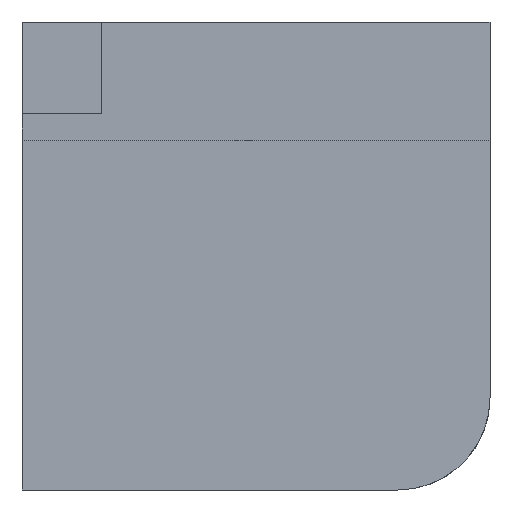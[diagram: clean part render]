
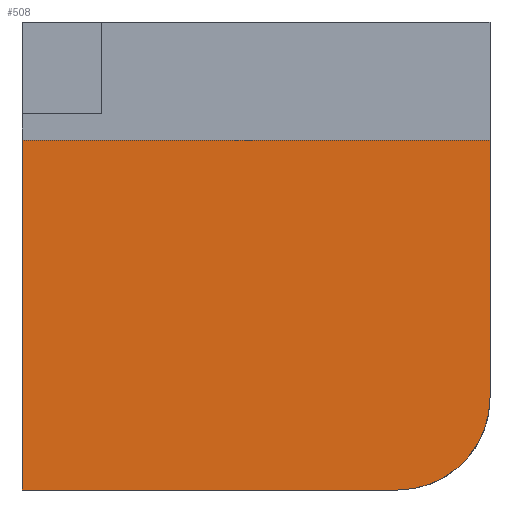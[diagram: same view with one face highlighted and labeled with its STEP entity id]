
A CAD part, left-side view. The second image highlights one B-rep face of the part: STEP entity #508.
In plain terms, the highlighted planar face has unit normal (-1, 0, 0).
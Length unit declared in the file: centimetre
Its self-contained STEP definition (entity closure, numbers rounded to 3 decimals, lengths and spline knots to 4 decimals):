
#2 = AXIS2_PLACEMENT_3D ( 'NONE', #545, #800, #596 ) ;
#24 = ORIENTED_EDGE ( 'NONE', *, *, #400, .T. ) ;
#30 = VERTEX_POINT ( 'NONE', #187 ) ;
#45 = CARTESIAN_POINT ( 'NONE',  ( 0., 1000., 747.0746 ) ) ;
#151 = PLANE ( 'NONE',  #767 ) ;
#156 = VECTOR ( 'NONE', #192, 100. ) ;
#165 = DIRECTION ( 'NONE',  ( 0., -1., 0. ) ) ;
#176 = LINE ( 'NONE', #764, #156 ) ;
#187 = CARTESIAN_POINT ( 'NONE',  ( 0., 1000., 0. ) ) ;
#192 = DIRECTION ( 'NONE',  ( 0., 1., 0. ) ) ;
#201 = FACE_OUTER_BOUND ( 'NONE', #500, .T. ) ;
#211 = EDGE_CURVE ( 'NONE', #761, #295, #370, .T. ) ;
#229 = DIRECTION ( 'NONE',  ( 0., 0., -1. ) ) ;
#270 = DIRECTION ( 'NONE',  ( 0., 0., -1. ) ) ;
#282 = ORIENTED_EDGE ( 'NONE', *, *, #655, .F. ) ;
#295 = VERTEX_POINT ( 'NONE', #772 ) ;
#307 = VERTEX_POINT ( 'NONE', #457 ) ;
#308 = DIRECTION ( 'NONE',  ( 0., 0., -1. ) ) ;
#352 = CARTESIAN_POINT ( 'NONE',  ( 0., 0., 1000. ) ) ;
#362 = ORIENTED_EDGE ( 'NONE', *, *, #718, .T. ) ;
#370 = CIRCLE ( 'NONE', #2, 197.5282 ) ;
#400 = EDGE_CURVE ( 'NONE', #307, #449, #176, .T. ) ;
#424 = ORIENTED_EDGE ( 'NONE', *, *, #747, .T. ) ;
#432 = CARTESIAN_POINT ( 'NONE',  ( 0., 1000., 0. ) ) ;
#449 = VERTEX_POINT ( 'NONE', #45 ) ;
#457 = CARTESIAN_POINT ( 'NONE',  ( 0., 0., 747.0746 ) ) ;
#471 = VECTOR ( 'NONE', #229, 100. ) ;
#481 = LINE ( 'NONE', #432, #537 ) ;
#500 = EDGE_LOOP ( 'NONE', ( #282, #24, #362, #424, #822 ) ) ;
#508 = ADVANCED_FACE ( 'NONE', ( #201 ), #151, .F. ) ;
#537 = VECTOR ( 'NONE', #165, 100. ) ;
#543 = LINE ( 'NONE', #352, #694 ) ;
#545 = CARTESIAN_POINT ( 'NONE',  ( 0., 197.5282, 197.5282 ) ) ;
#579 = DIRECTION ( 'NONE',  ( 1., 0., 0. ) ) ;
#596 = DIRECTION ( 'NONE',  ( 0., 0., -1. ) ) ;
#646 = CARTESIAN_POINT ( 'NONE',  ( 0., 1000., 1000. ) ) ;
#655 = EDGE_CURVE ( 'NONE', #307, #295, #543, .T. ) ;
#676 = CARTESIAN_POINT ( 'NONE',  ( 0., 197.5282, 0. ) ) ;
#694 = VECTOR ( 'NONE', #308, 100. ) ;
#718 = EDGE_CURVE ( 'NONE', #449, #30, #811, .T. ) ;
#732 = CARTESIAN_POINT ( 'NONE',  ( 0., 1000., 1000. ) ) ;
#747 = EDGE_CURVE ( 'NONE', #30, #761, #481, .T. ) ;
#761 = VERTEX_POINT ( 'NONE', #676 ) ;
#764 = CARTESIAN_POINT ( 'NONE',  ( 0., 0., 747.0746 ) ) ;
#767 = AXIS2_PLACEMENT_3D ( 'NONE', #646, #579, #270 ) ;
#772 = CARTESIAN_POINT ( 'NONE',  ( 0., 0., 197.5282 ) ) ;
#800 = DIRECTION ( 'NONE',  ( -1., 0., 0. ) ) ;
#811 = LINE ( 'NONE', #732, #471 ) ;
#822 = ORIENTED_EDGE ( 'NONE', *, *, #211, .T. ) ;
